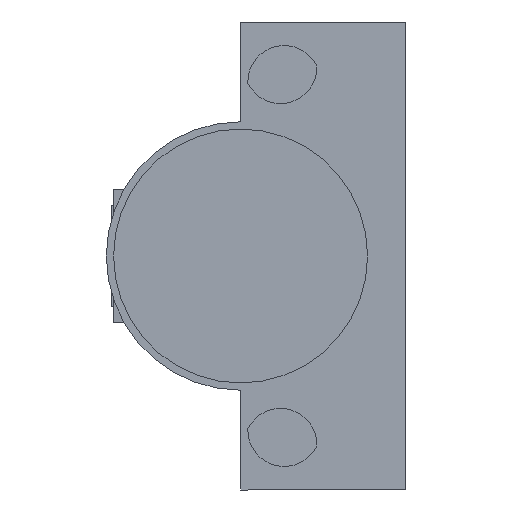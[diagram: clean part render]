
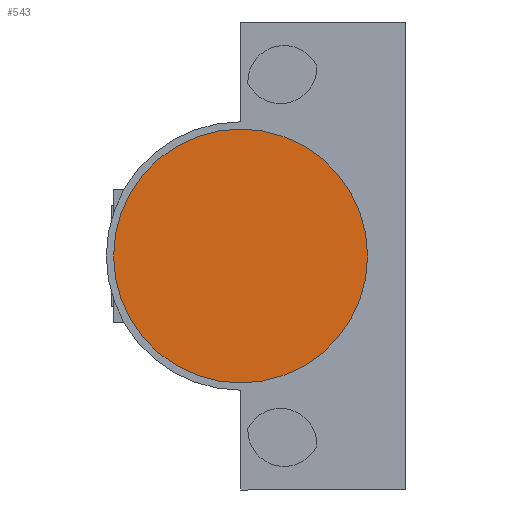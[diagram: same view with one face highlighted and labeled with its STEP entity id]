
A CAD part, front view. The second image highlights one B-rep face of the part: STEP entity #543.
In plain terms, the highlighted planar face has unit normal (0, -1, 0).
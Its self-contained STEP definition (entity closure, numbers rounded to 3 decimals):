
#145 = CARTESIAN_POINT ( 'NONE',  ( 21.5, -51.1, 0. ) ) ;
#163 = AXIS2_PLACEMENT_3D ( 'NONE', #145, #1199, #1215 ) ;
#253 = CIRCLE ( 'NONE', #163, 17.5 ) ;
#278 = VERTEX_POINT ( 'NONE', #1194 ) ;
#306 = VERTEX_POINT ( 'NONE', #706 ) ;
#329 = ORIENTED_EDGE ( 'NONE', *, *, #915, .T. ) ;
#462 = PLANE ( 'NONE',  #1497 ) ;
#543 = ADVANCED_FACE ( 'NONE', ( #1203 ), #462, .T. ) ;
#618 = CIRCLE ( 'NONE', #1276, 17.5 ) ;
#706 = CARTESIAN_POINT ( 'NONE',  ( 4., -51.1, 0. ) ) ;
#729 = CARTESIAN_POINT ( 'NONE',  ( 21.5, -51.1, 0. ) ) ;
#774 = DIRECTION ( 'NONE',  ( 0., -1., 0. ) ) ;
#790 = CARTESIAN_POINT ( 'NONE',  ( 21.5, -51.1, 0. ) ) ;
#887 = DIRECTION ( 'NONE',  ( 1., 0., 0. ) ) ;
#915 = EDGE_CURVE ( 'NONE', #278, #306, #618, .T. ) ;
#1171 = EDGE_LOOP ( 'NONE', ( #1421, #329 ) ) ;
#1194 = CARTESIAN_POINT ( 'NONE',  ( 39., -51.1, 0. ) ) ;
#1199 = DIRECTION ( 'NONE',  ( 0., -1., 0. ) ) ;
#1203 = FACE_OUTER_BOUND ( 'NONE', #1171, .T. ) ;
#1215 = DIRECTION ( 'NONE',  ( 1., 0., 0. ) ) ;
#1276 = AXIS2_PLACEMENT_3D ( 'NONE', #790, #774, #1709 ) ;
#1421 = ORIENTED_EDGE ( 'NONE', *, *, #1663, .T. ) ;
#1497 = AXIS2_PLACEMENT_3D ( 'NONE', #729, #1649, #887 ) ;
#1649 = DIRECTION ( 'NONE',  ( 0., -1., 0. ) ) ;
#1663 = EDGE_CURVE ( 'NONE', #306, #278, #253, .T. ) ;
#1709 = DIRECTION ( 'NONE',  ( 1., 0., 0. ) ) ;
